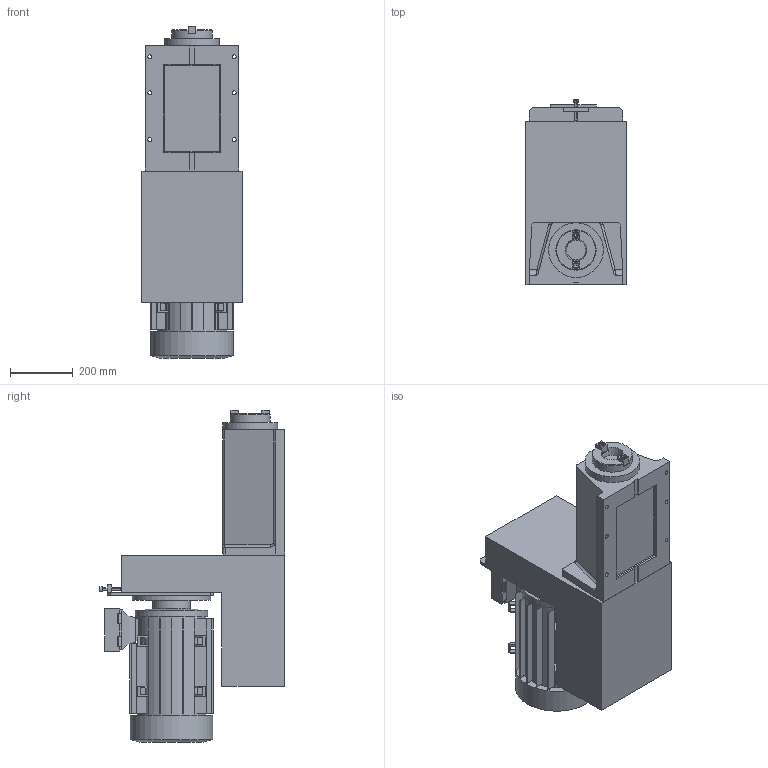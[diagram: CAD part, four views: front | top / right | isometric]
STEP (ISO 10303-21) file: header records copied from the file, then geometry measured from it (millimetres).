
FILE_DESCRIPTION((''),'2;1');
FILE_NAME('C:\VaultWork\Zeichnungen\Maßblätter\BF5\BF01364-1-0 Maßblatt Bohreinheit BF5 mit Z-Laterne, Werkzeugspanner und Drehdurchführung.stp','2009-03-27T14:32:06',('Test'),(''),'Autodesk Inventor 2008','Autodesk Inventor 2008','');
FILE_SCHEMA(('AUTOMOTIVE_DESIGN { 1 0 10303 214 1 1 1 1 }'));
Length unit declared in the file: millimetre
Products named in the file (1): BF01364-1-0 Maßblatt Bohreinheit BF5 mit Z-Laterne, Werkzeugspanner und Drehdurchführung
Bounding box: 320 x 593 x 1061.7 mm (x, y, z)
Volume: 78588729.3 mm3; surface area: 2158119.2 mm2
Topology: 1 solids, 3 shells, 495 faces, 1351 edges, 867 vertices
Faces by surface type: plane 405, cylinder 45, bspline 30, cone 12, torus 3
Full cylindrical faces by diameter (mm): 3.242 x1, 8 x1, 9 x2, 10 x2, 12 x6, 16 x1, 18 x2, 85 x1, 120 x1, 128.57 x1, 175 x1, 221 x1, 232 x1, 250 x1, 264 x1
Entity records: 16146 total; most frequent: CARTESIAN_POINT 3479, ORIENTED_EDGE 2532, DIRECTION 2365, EDGE_CURVE 1266, VECTOR 1019, LINE 1019, VERTEX_POINT 837, AXIS2_PLACEMENT_3D 673
